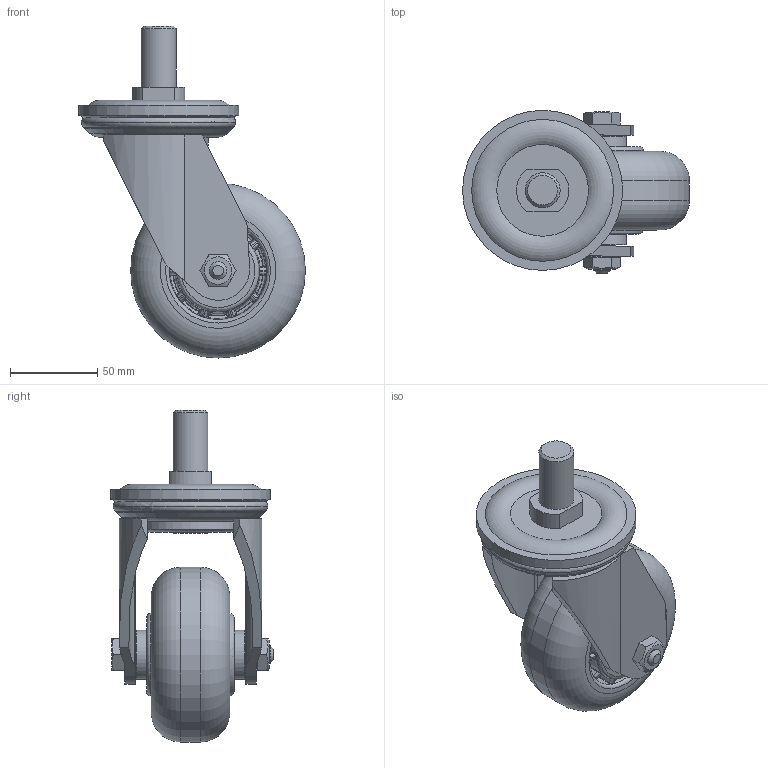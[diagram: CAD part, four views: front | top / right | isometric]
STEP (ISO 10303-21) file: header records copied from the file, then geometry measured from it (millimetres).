
FILE_DESCRIPTION(/* description */ (''),/* implementation_level */ '2;1');
FILE_NAME(/* name */ '35A95_4_F.stp',/* time_stamp */ '2022-10-07T09:47:07+08:00',/* author */ (''),/* organization */ (''),/* preprocessor_version */ 'ST-DEVELOPER v14',/* originating_system */ 'SIEMENS PLM Software NX 8.0',/* authorisation */ '');
FILE_SCHEMA (('AUTOMOTIVE_DESIGN { 1 0 10303 214 3 1 1 1 }'));
Length unit declared in the file: millimetre
Products named in the file (1): 35A95_4_F
Bounding box: 129.8 x 93.3 x 190 mm (x, y, z)
Volume: 17864.2 mm3; surface area: 112809.8 mm2
Topology: 3 solids, 4 shells, 903 faces, 2244 edges, 1388 vertices
Faces by surface type: bspline 364, plane 316, extrusion 82, cylinder 58, cone 37, sphere 25, torus 21
Full cylindrical faces by diameter (mm): 10.104 x4, 12 x1, 12.2 x2, 16 x1, 16.2 x2, 16.3 x1, 20 x1, 22.276 x1, 26.256 x1, 28 x2, 30.06 x1, 40 x1, 57 x1, 91.6 x1, 100 x1
Entity records: 39557 total; most frequent: CARTESIAN_POINT 23767, ORIENTED_EDGE 4164, EDGE_CURVE 2082, DIRECTION 1873, VERTEX_POINT 1316, EDGE_LOOP 1090, ADVANCED_FACE 903, B_SPLINE_CURVE_WITH_KNOTS 809
